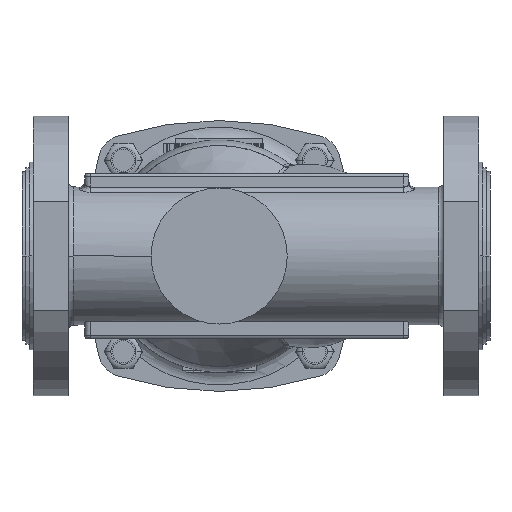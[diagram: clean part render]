
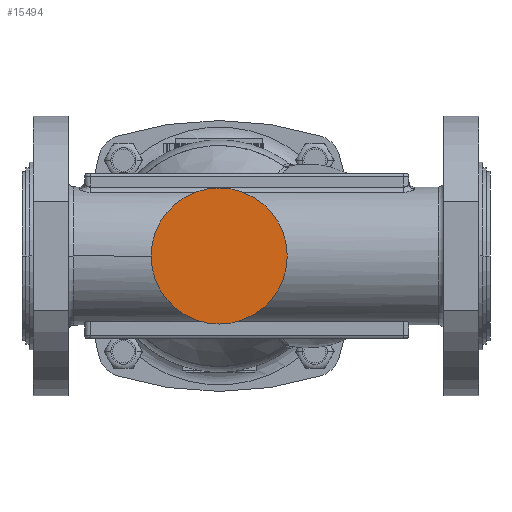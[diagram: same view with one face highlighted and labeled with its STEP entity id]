
A CAD part, front view. The second image highlights one B-rep face of the part: STEP entity #15494.
In plain terms, the highlighted planar face has unit normal (0, -1, 0).
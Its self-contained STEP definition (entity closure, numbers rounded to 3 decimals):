
#3769=CARTESIAN_POINT('',(0.,-70.,0.));
#3770=DIRECTION('',(0.,1.,0.));
#3771=DIRECTION('',(-1.,0.,0.));
#3772=AXIS2_PLACEMENT_3D('',#3769,#3770,#3771);
#3774=CARTESIAN_POINT('',(0.,-70.,0.));
#3775=DIRECTION('',(0.,-1.,0.));
#3776=DIRECTION('',(-1.,0.,0.));
#3777=AXIS2_PLACEMENT_3D('',#3774,#3775,#3776);
#9716=CARTESIAN_POINT('',(-36.95,-70.,0.));
#9717=VERTEX_POINT('',#9716);
#9730=CARTESIAN_POINT('',(36.95,-70.,0.));
#9731=VERTEX_POINT('',#9730);
#15485=CARTESIAN_POINT('',(0.,-70.,0.));
#15486=DIRECTION('',(0.,-1.,0.));
#15487=DIRECTION('',(-1.,0.,0.));
#15488=AXIS2_PLACEMENT_3D('',#15485,#15486,#15487);
#15489=PLANE('',#15488);
#15490=ORIENTED_EDGE('',*,*,#15480,.T.);
#15491=ORIENTED_EDGE('',*,*,#15464,.F.);
#15492=EDGE_LOOP('',(#15490,#15491));
#15493=FACE_OUTER_BOUND('',#15492,.F.);
#15494=ADVANCED_FACE('',(#15493),#15489,.T.);
#3773=CIRCLE('',#3772,36.95);
#3778=CIRCLE('',#3777,36.95);
#15464=EDGE_CURVE('',#9717,#9731,#3778,.T.);
#15480=EDGE_CURVE('',#9717,#9731,#3773,.T.);
